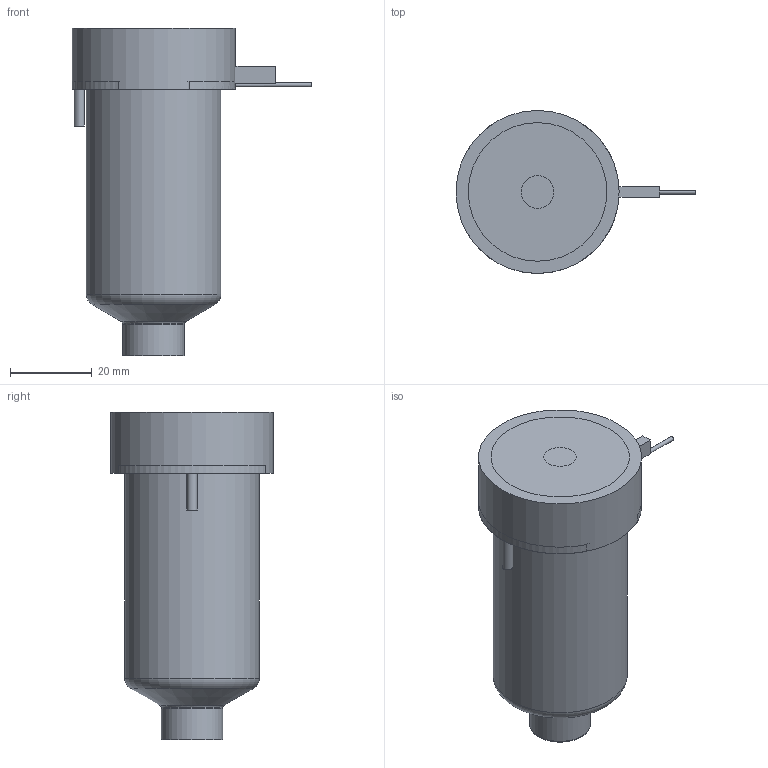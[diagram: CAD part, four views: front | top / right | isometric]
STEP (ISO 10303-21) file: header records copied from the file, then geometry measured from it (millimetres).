
FILE_DESCRIPTION(/* description */ (''),/* implementation_level */ '2;1');
FILE_NAME(/* name */ 'BXTBE19065_200C_a',/* time_stamp */ '2016-03-02T15:05:50+13:00',/* author */ (''),/* organization */ (''),/* preprocessor_version */ 'ST-DEVELOPER v9',/* originating_system */ 'UGS - NX 4.0',/* authorisation */ '');
FILE_SCHEMA (('CONFIG_CONTROL_DESIGN'));
Length unit declared in the file: millimetre
Products named in the file (1): matt3462e0aq
Bounding box: 58.85 x 40 x 80.37 mm (x, y, z)
Volume: 119696.9 mm3; surface area: 20458.7 mm2
Topology: 2 solids, 2 shells, 64 faces, 145 edges, 94 vertices
Faces by surface type: plane 30, cylinder 20, torus 7, cone 6, bspline 1
Full cylindrical faces by diameter (mm): 1 x2, 1.2 x1, 2.5 x1, 8 x1, 14.61 x1, 15.01 x2, 18.3 x1, 28.6 x1, 33 x1, 40 x1
Entity records: 1889 total; most frequent: CARTESIAN_POINT 477, DIRECTION 289, ORIENTED_EDGE 228, AXIS2_PLACEMENT_3D 123, EDGE_CURVE 114, EDGE_LOOP 98, VERTEX_POINT 86, ADVANCED_FACE 64
